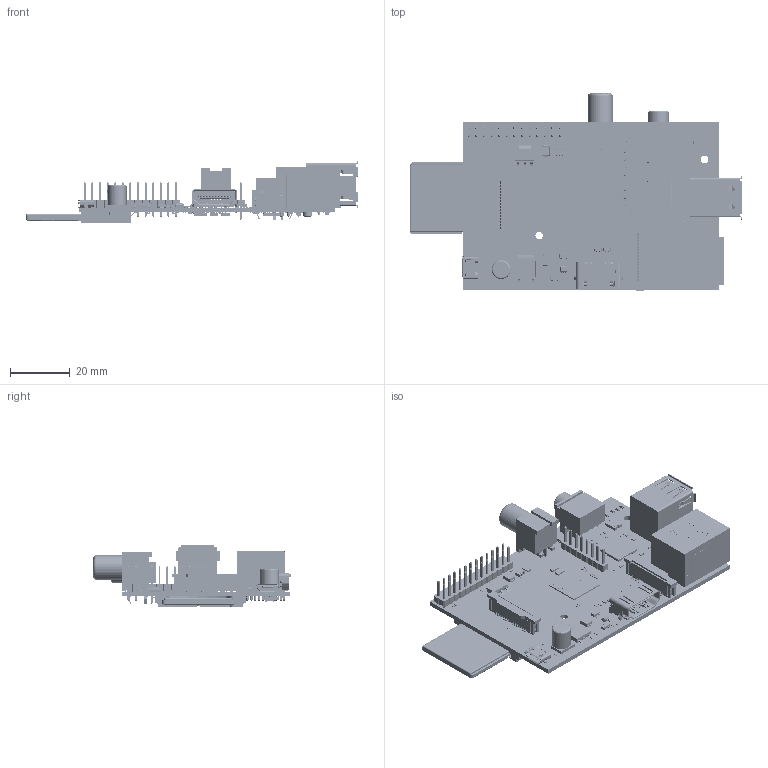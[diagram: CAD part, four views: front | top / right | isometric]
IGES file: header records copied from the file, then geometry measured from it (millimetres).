
Start section: SolidWorks IGES file using analytic representation for surfaces
Global section: file name: E:\juarez\desenhos\solidworks\raspberry-pi-b-mounting_holes\enviar\raspberrypi_b_assembly_mounting_holes.IGS; native system: SolidWorks 2012; preprocessor: SolidWorks 2012; author: Juarez-scn; date: 131003.110138; units: millimetre
Bounding box: 110.83 x 65.9 x 20.48 mm (x, y, z)
Surface area: 30670.7 mm2 (no closed solid volume)
Topology: 0 solids, 0 shells, 16195 faces, 97634 edges, 97508 vertices
Faces by surface type: bspline 13581, revolution 2614
